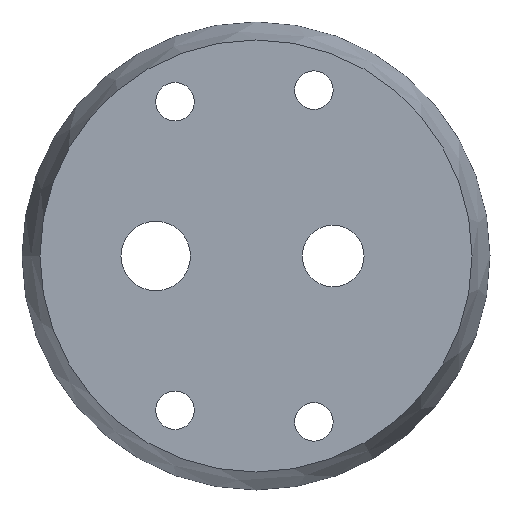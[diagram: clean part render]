
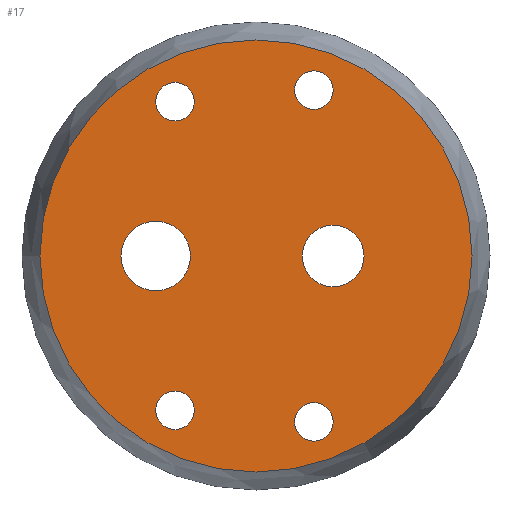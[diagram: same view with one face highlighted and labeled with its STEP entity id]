
A CAD part, left-side view. The second image highlights one B-rep face of the part: STEP entity #17.
In plain terms, the highlighted planar face has unit normal (-1, 0, 0).
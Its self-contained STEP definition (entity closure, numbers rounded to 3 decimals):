
#17 = ADVANCED_FACE('',(#18,#54,#85,#116,#147,#178,#209),#31,.F.);
#18 = FACE_BOUND('',#19,.T.);
#19 = EDGE_LOOP('',(#20));
#20 = ORIENTED_EDGE('',*,*,#21,.F.);
#21 = EDGE_CURVE('',#22,#22,#24,.T.);
#22 = VERTEX_POINT('',#23);
#23 = CARTESIAN_POINT('',(0.,28.,0.));
#24 = SURFACE_CURVE('',#25,(#30,#42),.PCURVE_S1.);
#25 = CIRCLE('',#26,28.);
#26 = AXIS2_PLACEMENT_3D('',#27,#28,#29);
#27 = CARTESIAN_POINT('',(0.,0.,0.));
#28 = DIRECTION('',(1.,0.,0.));
#29 = DIRECTION('',(-0.,1.,0.));
#30 = PCURVE('',#31,#36);
#31 = PLANE('',#32);
#32 = AXIS2_PLACEMENT_3D('',#33,#34,#35);
#33 = CARTESIAN_POINT('',(0.,0.,0.));
#34 = DIRECTION('',(1.,0.,0.));
#35 = DIRECTION('',(-0.,1.,0.));
#36 = DEFINITIONAL_REPRESENTATION('',(#37),#41);
#37 = CIRCLE('',#38,28.);
#38 = AXIS2_PLACEMENT_2D('',#39,#40);
#39 = CARTESIAN_POINT('',(0.,0.));
#40 = DIRECTION('',(1.,-0.));
#41 = ( GEOMETRIC_REPRESENTATION_CONTEXT(2) 
PARAMETRIC_REPRESENTATION_CONTEXT() REPRESENTATION_CONTEXT('2D SPACE',''
  ) );
#42 = PCURVE('',#43,#48);
#43 = CONICAL_SURFACE('',#44,28.,0.229);
#44 = AXIS2_PLACEMENT_3D('',#45,#46,#47);
#45 = CARTESIAN_POINT('',(0.,0.,0.));
#46 = DIRECTION('',(1.,0.,0.));
#47 = DIRECTION('',(-0.,1.,0.));
#48 = DEFINITIONAL_REPRESENTATION('',(#49),#53);
#49 = LINE('',#50,#51);
#50 = CARTESIAN_POINT('',(0.,0.));
#51 = VECTOR('',#52,1.);
#52 = DIRECTION('',(1.,0.));
#53 = ( GEOMETRIC_REPRESENTATION_CONTEXT(2) 
PARAMETRIC_REPRESENTATION_CONTEXT() REPRESENTATION_CONTEXT('2D SPACE',''
  ) );
#54 = FACE_BOUND('',#55,.T.);
#55 = EDGE_LOOP('',(#56));
#56 = ORIENTED_EDGE('',*,*,#57,.T.);
#57 = EDGE_CURVE('',#58,#58,#60,.T.);
#58 = VERTEX_POINT('',#59);
#59 = CARTESIAN_POINT('',(0.,10.5,-17.5));
#60 = SURFACE_CURVE('',#61,(#66,#73),.PCURVE_S1.);
#61 = CIRCLE('',#62,2.5);
#62 = AXIS2_PLACEMENT_3D('',#63,#64,#65);
#63 = CARTESIAN_POINT('',(0.,10.5,-20.));
#64 = DIRECTION('',(1.,0.,0.));
#65 = DIRECTION('',(-0.,0.,1.));
#66 = PCURVE('',#31,#67);
#67 = DEFINITIONAL_REPRESENTATION('',(#68),#72);
#68 = CIRCLE('',#69,2.5);
#69 = AXIS2_PLACEMENT_2D('',#70,#71);
#70 = CARTESIAN_POINT('',(10.5,-20.));
#71 = DIRECTION('',(0.,1.));
#72 = ( GEOMETRIC_REPRESENTATION_CONTEXT(2) 
PARAMETRIC_REPRESENTATION_CONTEXT() REPRESENTATION_CONTEXT('2D SPACE',''
  ) );
#73 = PCURVE('',#74,#79);
#74 = CYLINDRICAL_SURFACE('',#75,2.5);
#75 = AXIS2_PLACEMENT_3D('',#76,#77,#78);
#76 = CARTESIAN_POINT('',(-1.,10.5,-20.));
#77 = DIRECTION('',(1.,0.,0.));
#78 = DIRECTION('',(-0.,0.,1.));
#79 = DEFINITIONAL_REPRESENTATION('',(#80),#84);
#80 = LINE('',#81,#82);
#81 = CARTESIAN_POINT('',(0.,1.));
#82 = VECTOR('',#83,1.);
#83 = DIRECTION('',(1.,0.));
#84 = ( GEOMETRIC_REPRESENTATION_CONTEXT(2) 
PARAMETRIC_REPRESENTATION_CONTEXT() REPRESENTATION_CONTEXT('2D SPACE',''
  ) );
#85 = FACE_BOUND('',#86,.T.);
#86 = EDGE_LOOP('',(#87));
#87 = ORIENTED_EDGE('',*,*,#88,.T.);
#88 = EDGE_CURVE('',#89,#89,#91,.T.);
#89 = VERTEX_POINT('',#90);
#90 = CARTESIAN_POINT('',(0.,-7.5,-19.));
#91 = SURFACE_CURVE('',#92,(#97,#104),.PCURVE_S1.);
#92 = CIRCLE('',#93,2.5);
#93 = AXIS2_PLACEMENT_3D('',#94,#95,#96);
#94 = CARTESIAN_POINT('',(0.,-7.5,-21.5));
#95 = DIRECTION('',(1.,0.,0.));
#96 = DIRECTION('',(-0.,0.,1.));
#97 = PCURVE('',#31,#98);
#98 = DEFINITIONAL_REPRESENTATION('',(#99),#103);
#99 = CIRCLE('',#100,2.5);
#100 = AXIS2_PLACEMENT_2D('',#101,#102);
#101 = CARTESIAN_POINT('',(-7.5,-21.5));
#102 = DIRECTION('',(0.,1.));
#103 = ( GEOMETRIC_REPRESENTATION_CONTEXT(2) 
PARAMETRIC_REPRESENTATION_CONTEXT() REPRESENTATION_CONTEXT('2D SPACE',''
  ) );
#104 = PCURVE('',#105,#110);
#105 = CYLINDRICAL_SURFACE('',#106,2.5);
#106 = AXIS2_PLACEMENT_3D('',#107,#108,#109);
#107 = CARTESIAN_POINT('',(-1.,-7.5,-21.5));
#108 = DIRECTION('',(1.,0.,0.));
#109 = DIRECTION('',(-0.,0.,1.));
#110 = DEFINITIONAL_REPRESENTATION('',(#111),#115);
#111 = LINE('',#112,#113);
#112 = CARTESIAN_POINT('',(0.,1.));
#113 = VECTOR('',#114,1.);
#114 = DIRECTION('',(1.,0.));
#115 = ( GEOMETRIC_REPRESENTATION_CONTEXT(2) 
PARAMETRIC_REPRESENTATION_CONTEXT() REPRESENTATION_CONTEXT('2D SPACE',''
  ) );
#116 = FACE_BOUND('',#117,.T.);
#117 = EDGE_LOOP('',(#118));
#118 = ORIENTED_EDGE('',*,*,#119,.T.);
#119 = EDGE_CURVE('',#120,#120,#122,.T.);
#120 = VERTEX_POINT('',#121);
#121 = CARTESIAN_POINT('',(0.,13.,4.5));
#122 = SURFACE_CURVE('',#123,(#128,#135),.PCURVE_S1.);
#123 = CIRCLE('',#124,4.5);
#124 = AXIS2_PLACEMENT_3D('',#125,#126,#127);
#125 = CARTESIAN_POINT('',(0.,13.,0.));
#126 = DIRECTION('',(1.,0.,0.));
#127 = DIRECTION('',(-0.,0.,1.));
#128 = PCURVE('',#31,#129);
#129 = DEFINITIONAL_REPRESENTATION('',(#130),#134);
#130 = CIRCLE('',#131,4.5);
#131 = AXIS2_PLACEMENT_2D('',#132,#133);
#132 = CARTESIAN_POINT('',(13.,0.));
#133 = DIRECTION('',(0.,1.));
#134 = ( GEOMETRIC_REPRESENTATION_CONTEXT(2) 
PARAMETRIC_REPRESENTATION_CONTEXT() REPRESENTATION_CONTEXT('2D SPACE',''
  ) );
#135 = PCURVE('',#136,#141);
#136 = CYLINDRICAL_SURFACE('',#137,4.5);
#137 = AXIS2_PLACEMENT_3D('',#138,#139,#140);
#138 = CARTESIAN_POINT('',(-1.,13.,0.));
#139 = DIRECTION('',(1.,0.,0.));
#140 = DIRECTION('',(-0.,0.,1.));
#141 = DEFINITIONAL_REPRESENTATION('',(#142),#146);
#142 = LINE('',#143,#144);
#143 = CARTESIAN_POINT('',(0.,1.));
#144 = VECTOR('',#145,1.);
#145 = DIRECTION('',(1.,0.));
#146 = ( GEOMETRIC_REPRESENTATION_CONTEXT(2) 
PARAMETRIC_REPRESENTATION_CONTEXT() REPRESENTATION_CONTEXT('2D SPACE',''
  ) );
#147 = FACE_BOUND('',#148,.T.);
#148 = EDGE_LOOP('',(#149));
#149 = ORIENTED_EDGE('',*,*,#150,.T.);
#150 = EDGE_CURVE('',#151,#151,#153,.T.);
#151 = VERTEX_POINT('',#152);
#152 = CARTESIAN_POINT('',(0.,10.5,22.5));
#153 = SURFACE_CURVE('',#154,(#159,#166),.PCURVE_S1.);
#154 = CIRCLE('',#155,2.5);
#155 = AXIS2_PLACEMENT_3D('',#156,#157,#158);
#156 = CARTESIAN_POINT('',(0.,10.5,20.));
#157 = DIRECTION('',(1.,0.,0.));
#158 = DIRECTION('',(-0.,0.,1.));
#159 = PCURVE('',#31,#160);
#160 = DEFINITIONAL_REPRESENTATION('',(#161),#165);
#161 = CIRCLE('',#162,2.5);
#162 = AXIS2_PLACEMENT_2D('',#163,#164);
#163 = CARTESIAN_POINT('',(10.5,20.));
#164 = DIRECTION('',(0.,1.));
#165 = ( GEOMETRIC_REPRESENTATION_CONTEXT(2) 
PARAMETRIC_REPRESENTATION_CONTEXT() REPRESENTATION_CONTEXT('2D SPACE',''
  ) );
#166 = PCURVE('',#167,#172);
#167 = CYLINDRICAL_SURFACE('',#168,2.5);
#168 = AXIS2_PLACEMENT_3D('',#169,#170,#171);
#169 = CARTESIAN_POINT('',(-1.,10.5,20.));
#170 = DIRECTION('',(1.,0.,0.));
#171 = DIRECTION('',(-0.,0.,1.));
#172 = DEFINITIONAL_REPRESENTATION('',(#173),#177);
#173 = LINE('',#174,#175);
#174 = CARTESIAN_POINT('',(0.,1.));
#175 = VECTOR('',#176,1.);
#176 = DIRECTION('',(1.,0.));
#177 = ( GEOMETRIC_REPRESENTATION_CONTEXT(2) 
PARAMETRIC_REPRESENTATION_CONTEXT() REPRESENTATION_CONTEXT('2D SPACE',''
  ) );
#178 = FACE_BOUND('',#179,.T.);
#179 = EDGE_LOOP('',(#180));
#180 = ORIENTED_EDGE('',*,*,#181,.T.);
#181 = EDGE_CURVE('',#182,#182,#184,.T.);
#182 = VERTEX_POINT('',#183);
#183 = CARTESIAN_POINT('',(0.,-10.,4.));
#184 = SURFACE_CURVE('',#185,(#190,#197),.PCURVE_S1.);
#185 = CIRCLE('',#186,4.);
#186 = AXIS2_PLACEMENT_3D('',#187,#188,#189);
#187 = CARTESIAN_POINT('',(0.,-10.,0.));
#188 = DIRECTION('',(1.,0.,0.));
#189 = DIRECTION('',(-0.,0.,1.));
#190 = PCURVE('',#31,#191);
#191 = DEFINITIONAL_REPRESENTATION('',(#192),#196);
#192 = CIRCLE('',#193,4.);
#193 = AXIS2_PLACEMENT_2D('',#194,#195);
#194 = CARTESIAN_POINT('',(-10.,0.));
#195 = DIRECTION('',(0.,1.));
#196 = ( GEOMETRIC_REPRESENTATION_CONTEXT(2) 
PARAMETRIC_REPRESENTATION_CONTEXT() REPRESENTATION_CONTEXT('2D SPACE',''
  ) );
#197 = PCURVE('',#198,#203);
#198 = CYLINDRICAL_SURFACE('',#199,4.);
#199 = AXIS2_PLACEMENT_3D('',#200,#201,#202);
#200 = CARTESIAN_POINT('',(-1.,-10.,0.));
#201 = DIRECTION('',(1.,0.,0.));
#202 = DIRECTION('',(-0.,0.,1.));
#203 = DEFINITIONAL_REPRESENTATION('',(#204),#208);
#204 = LINE('',#205,#206);
#205 = CARTESIAN_POINT('',(0.,1.));
#206 = VECTOR('',#207,1.);
#207 = DIRECTION('',(1.,0.));
#208 = ( GEOMETRIC_REPRESENTATION_CONTEXT(2) 
PARAMETRIC_REPRESENTATION_CONTEXT() REPRESENTATION_CONTEXT('2D SPACE',''
  ) );
#209 = FACE_BOUND('',#210,.T.);
#210 = EDGE_LOOP('',(#211));
#211 = ORIENTED_EDGE('',*,*,#212,.T.);
#212 = EDGE_CURVE('',#213,#213,#215,.T.);
#213 = VERTEX_POINT('',#214);
#214 = CARTESIAN_POINT('',(0.,-7.5,24.));
#215 = SURFACE_CURVE('',#216,(#221,#228),.PCURVE_S1.);
#216 = CIRCLE('',#217,2.5);
#217 = AXIS2_PLACEMENT_3D('',#218,#219,#220);
#218 = CARTESIAN_POINT('',(0.,-7.5,21.5));
#219 = DIRECTION('',(1.,0.,0.));
#220 = DIRECTION('',(-0.,0.,1.));
#221 = PCURVE('',#31,#222);
#222 = DEFINITIONAL_REPRESENTATION('',(#223),#227);
#223 = CIRCLE('',#224,2.5);
#224 = AXIS2_PLACEMENT_2D('',#225,#226);
#225 = CARTESIAN_POINT('',(-7.5,21.5));
#226 = DIRECTION('',(0.,1.));
#227 = ( GEOMETRIC_REPRESENTATION_CONTEXT(2) 
PARAMETRIC_REPRESENTATION_CONTEXT() REPRESENTATION_CONTEXT('2D SPACE',''
  ) );
#228 = PCURVE('',#229,#234);
#229 = CYLINDRICAL_SURFACE('',#230,2.5);
#230 = AXIS2_PLACEMENT_3D('',#231,#232,#233);
#231 = CARTESIAN_POINT('',(-1.,-7.5,21.5));
#232 = DIRECTION('',(1.,0.,0.));
#233 = DIRECTION('',(-0.,0.,1.));
#234 = DEFINITIONAL_REPRESENTATION('',(#235),#239);
#235 = LINE('',#236,#237);
#236 = CARTESIAN_POINT('',(0.,1.));
#237 = VECTOR('',#238,1.);
#238 = DIRECTION('',(1.,0.));
#239 = ( GEOMETRIC_REPRESENTATION_CONTEXT(2) 
PARAMETRIC_REPRESENTATION_CONTEXT() REPRESENTATION_CONTEXT('2D SPACE',''
  ) );
